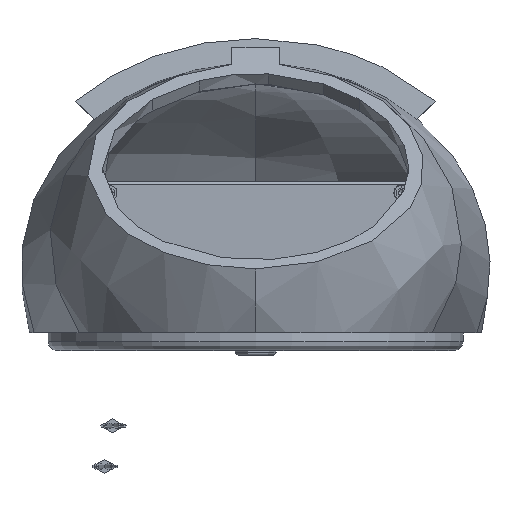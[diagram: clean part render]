
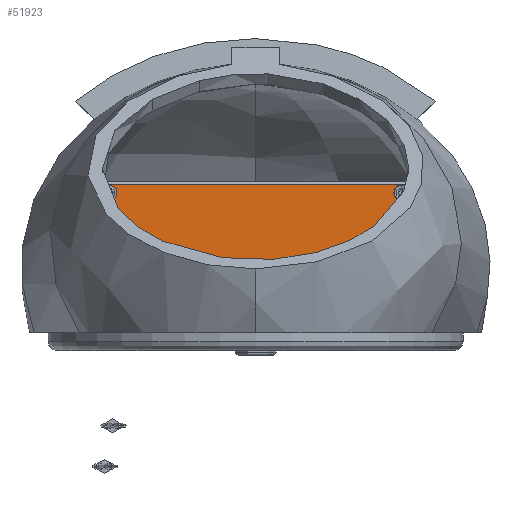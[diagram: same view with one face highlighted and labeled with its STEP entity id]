
A CAD part, front view. The second image highlights one B-rep face of the part: STEP entity #51923.
In plain terms, the highlighted planar face has unit normal (0, -1, 0) as drawn and (0, 1, 0) by its records, which use the part's own axes.
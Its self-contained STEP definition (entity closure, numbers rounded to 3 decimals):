
#1058 = EDGE_LOOP ( 'NONE', ( #5347, #51339, #9104, #41329, #8130, #51818 ) ) ;
#1235 = DIRECTION ( 'NONE',  ( 0., 0., 1. ) ) ;
#1707 = DIRECTION ( 'NONE',  ( 0., -1., 0. ) ) ;
#2329 = CARTESIAN_POINT ( 'NONE',  ( 49.2, 3., 15.7 ) ) ;
#3208 = AXIS2_PLACEMENT_3D ( 'NONE', #45424, #53042, #44869 ) ;
#3218 = VERTEX_POINT ( 'NONE', #18179 ) ;
#3642 = DIRECTION ( 'NONE',  ( 0., -1., 0. ) ) ;
#3797 = VERTEX_POINT ( 'NONE', #17565 ) ;
#4215 = LINE ( 'NONE', #26100, #50249 ) ;
#5016 = EDGE_LOOP ( 'NONE', ( #13840, #11275 ) ) ;
#5347 = ORIENTED_EDGE ( 'NONE', *, *, #46876, .T. ) ;
#5494 = ORIENTED_EDGE ( 'NONE', *, *, #41029, .T. ) ;
#6510 = CARTESIAN_POINT ( 'NONE',  ( 49.2, 3., -28.95 ) ) ;
#7754 = AXIS2_PLACEMENT_3D ( 'NONE', #9491, #9657, #18591 ) ;
#8130 = ORIENTED_EDGE ( 'NONE', *, *, #48815, .T. ) ;
#8308 = EDGE_CURVE ( 'NONE', #24731, #33699, #8690, .T. ) ;
#8355 = EDGE_CURVE ( 'NONE', #29103, #27866, #42750, .T. ) ;
#8690 = CIRCLE ( 'NONE', #18151, 2.75 ) ;
#9104 = ORIENTED_EDGE ( 'NONE', *, *, #9277, .T. ) ;
#9277 = EDGE_CURVE ( 'NONE', #3218, #19041, #45313, .T. ) ;
#9491 = CARTESIAN_POINT ( 'NONE',  ( 51., 3., 17.5 ) ) ;
#9657 = DIRECTION ( 'NONE',  ( 0., 1., 0. ) ) ;
#10444 = DIRECTION ( 'NONE',  ( 0., 0., 1. ) ) ;
#10825 = VECTOR ( 'NONE', #52141, 1000. ) ;
#11258 = DIRECTION ( 'NONE',  ( 0., -1., 0. ) ) ;
#11275 = ORIENTED_EDGE ( 'NONE', *, *, #22335, .T. ) ;
#11458 = VERTEX_POINT ( 'NONE', #26667 ) ;
#11878 = FACE_BOUND ( 'NONE', #36624, .T. ) ;
#13840 = ORIENTED_EDGE ( 'NONE', *, *, #37626, .T. ) ;
#13894 = PLANE ( 'NONE',  #17117 ) ;
#14548 = LINE ( 'NONE', #36496, #30616 ) ;
#14914 = CIRCLE ( 'NONE', #33344, 2.75 ) ;
#15614 = DIRECTION ( 'NONE',  ( 0., -1., 0. ) ) ;
#17117 = AXIS2_PLACEMENT_3D ( 'NONE', #44485, #53026, #1235 ) ;
#17522 = LINE ( 'NONE', #26234, #10825 ) ;
#17565 = CARTESIAN_POINT ( 'NONE',  ( -49.2, 3., 12.95 ) ) ;
#18151 = AXIS2_PLACEMENT_3D ( 'NONE', #22977, #1707, #10444 ) ;
#18179 = CARTESIAN_POINT ( 'NONE',  ( -52., 3., 17.5 ) ) ;
#18591 = DIRECTION ( 'NONE',  ( 0., 0., 1. ) ) ;
#19041 = VERTEX_POINT ( 'NONE', #30239 ) ;
#19338 = ORIENTED_EDGE ( 'NONE', *, *, #38861, .T. ) ;
#19465 = CIRCLE ( 'NONE', #7754, 1. ) ;
#19861 = CIRCLE ( 'NONE', #28509, 2.75 ) ;
#20041 = EDGE_CURVE ( 'NONE', #19041, #46891, #31441, .T. ) ;
#21356 = CARTESIAN_POINT ( 'NONE',  ( 52., 3., 17.5 ) ) ;
#22050 = ORIENTED_EDGE ( 'NONE', *, *, #8308, .T. ) ;
#22335 = EDGE_CURVE ( 'NONE', #3797, #23446, #51962, .T. ) ;
#22485 = AXIS2_PLACEMENT_3D ( 'NONE', #2329, #11258, #53588 ) ;
#22694 = VERTEX_POINT ( 'NONE', #21356 ) ;
#22724 = CARTESIAN_POINT ( 'NONE',  ( 51., 3., 18.5 ) ) ;
#22784 = DIRECTION ( 'NONE',  ( 0., -1., 0. ) ) ;
#22977 = CARTESIAN_POINT ( 'NONE',  ( 49.2, 3., -31.7 ) ) ;
#23446 = VERTEX_POINT ( 'NONE', #43407 ) ;
#23681 = EDGE_LOOP ( 'NONE', ( #48334, #22050 ) ) ;
#23877 = FACE_OUTER_BOUND ( 'NONE', #1058, .T. ) ;
#24731 = VERTEX_POINT ( 'NONE', #51080 ) ;
#25184 = AXIS2_PLACEMENT_3D ( 'NONE', #26776, #43210, #35211 ) ;
#25375 = VERTEX_POINT ( 'NONE', #35908 ) ;
#26100 = CARTESIAN_POINT ( 'NONE',  ( -53., 3., -35.5 ) ) ;
#26234 = CARTESIAN_POINT ( 'NONE',  ( 52., 3., -35.5 ) ) ;
#26355 = DIRECTION ( 'NONE',  ( 0., -1., 0. ) ) ;
#26587 = ORIENTED_EDGE ( 'NONE', *, *, #55169, .T. ) ;
#26667 = CARTESIAN_POINT ( 'NONE',  ( 49.2, 3., 12.95 ) ) ;
#26776 = CARTESIAN_POINT ( 'NONE',  ( 49.2, 3., -31.7 ) ) ;
#27070 = DIRECTION ( 'NONE',  ( 0., 0., 1. ) ) ;
#27174 = ORIENTED_EDGE ( 'NONE', *, *, #8355, .T. ) ;
#27462 = VERTEX_POINT ( 'NONE', #48180 ) ;
#27866 = VERTEX_POINT ( 'NONE', #54647 ) ;
#28083 = AXIS2_PLACEMENT_3D ( 'NONE', #54545, #3642, #50640 ) ;
#28330 = CIRCLE ( 'NONE', #25184, 2.75 ) ;
#28509 = AXIS2_PLACEMENT_3D ( 'NONE', #47646, #26355, #36070 ) ;
#28719 = CARTESIAN_POINT ( 'NONE',  ( 49.2, 3., 15.7 ) ) ;
#29103 = VERTEX_POINT ( 'NONE', #39580 ) ;
#29258 = FACE_BOUND ( 'NONE', #5016, .T. ) ;
#29596 = EDGE_CURVE ( 'NONE', #33699, #24731, #28330, .T. ) ;
#30239 = CARTESIAN_POINT ( 'NONE',  ( -51., 3., 18.5 ) ) ;
#30616 = VECTOR ( 'NONE', #32560, 1000. ) ;
#30690 = DIRECTION ( 'NONE',  ( 1., 0., 0. ) ) ;
#30996 = EDGE_CURVE ( 'NONE', #22694, #25375, #17522, .T. ) ;
#31441 = LINE ( 'NONE', #35172, #36099 ) ;
#32560 = DIRECTION ( 'NONE',  ( 0., 0., 1. ) ) ;
#33344 = AXIS2_PLACEMENT_3D ( 'NONE', #28719, #15614, #53865 ) ;
#33699 = VERTEX_POINT ( 'NONE', #6510 ) ;
#34022 = CARTESIAN_POINT ( 'NONE',  ( -51., 3., 17.5 ) ) ;
#35172 = CARTESIAN_POINT ( 'NONE',  ( 51., 3., 18.5 ) ) ;
#35211 = DIRECTION ( 'NONE',  ( 0., 0., 1. ) ) ;
#35808 = DIRECTION ( 'NONE',  ( -1., 0., 0. ) ) ;
#35908 = CARTESIAN_POINT ( 'NONE',  ( 52., 3., -35.5 ) ) ;
#36070 = DIRECTION ( 'NONE',  ( 0., 0., 1. ) ) ;
#36099 = VECTOR ( 'NONE', #30690, 1000. ) ;
#36496 = CARTESIAN_POINT ( 'NONE',  ( -52., 3., 17.5 ) ) ;
#36554 = CARTESIAN_POINT ( 'NONE',  ( 49.2, 3., 18.45 ) ) ;
#36624 = EDGE_LOOP ( 'NONE', ( #19338, #27174 ) ) ;
#36935 = VERTEX_POINT ( 'NONE', #36554 ) ;
#37626 = EDGE_CURVE ( 'NONE', #23446, #3797, #46718, .T. ) ;
#38332 = DIRECTION ( 'NONE',  ( 0., 1., 0. ) ) ;
#38424 = CIRCLE ( 'NONE', #22485, 2.75 ) ;
#38861 = EDGE_CURVE ( 'NONE', #27866, #29103, #19861, .T. ) ;
#39580 = CARTESIAN_POINT ( 'NONE',  ( -49.2, 3., -34.45 ) ) ;
#40607 = FACE_BOUND ( 'NONE', #23681, .T. ) ;
#41029 = EDGE_CURVE ( 'NONE', #11458, #36935, #38424, .T. ) ;
#41329 = ORIENTED_EDGE ( 'NONE', *, *, #20041, .T. ) ;
#42120 = AXIS2_PLACEMENT_3D ( 'NONE', #52413, #22784, #27070 ) ;
#42565 = DIRECTION ( 'NONE',  ( 0., 0., 1. ) ) ;
#42750 = CIRCLE ( 'NONE', #42120, 2.75 ) ;
#43210 = DIRECTION ( 'NONE',  ( 0., -1., 0. ) ) ;
#43407 = CARTESIAN_POINT ( 'NONE',  ( -49.2, 3., 18.45 ) ) ;
#44485 = CARTESIAN_POINT ( 'NONE',  ( 51., 3., 17.5 ) ) ;
#44869 = DIRECTION ( 'NONE',  ( 0., 0., 1. ) ) ;
#45014 = EDGE_LOOP ( 'NONE', ( #26587, #5494 ) ) ;
#45313 = CIRCLE ( 'NONE', #49604, 1. ) ;
#45424 = CARTESIAN_POINT ( 'NONE',  ( -49.2, 3., 15.7 ) ) ;
#46718 = CIRCLE ( 'NONE', #28083, 2.75 ) ;
#46876 = EDGE_CURVE ( 'NONE', #25375, #27462, #4215, .T. ) ;
#46891 = VERTEX_POINT ( 'NONE', #22724 ) ;
#47646 = CARTESIAN_POINT ( 'NONE',  ( -49.2, 3., -31.7 ) ) ;
#48180 = CARTESIAN_POINT ( 'NONE',  ( -52., 3., -35.5 ) ) ;
#48334 = ORIENTED_EDGE ( 'NONE', *, *, #29596, .T. ) ;
#48815 = EDGE_CURVE ( 'NONE', #46891, #22694, #19465, .T. ) ;
#49248 = FACE_BOUND ( 'NONE', #45014, .T. ) ;
#49604 = AXIS2_PLACEMENT_3D ( 'NONE', #34022, #38332, #42565 ) ;
#50249 = VECTOR ( 'NONE', #35808, 1000. ) ;
#50640 = DIRECTION ( 'NONE',  ( 0., 0., 1. ) ) ;
#51080 = CARTESIAN_POINT ( 'NONE',  ( 49.2, 3., -34.45 ) ) ;
#51339 = ORIENTED_EDGE ( 'NONE', *, *, #52065, .T. ) ;
#51818 = ORIENTED_EDGE ( 'NONE', *, *, #30996, .T. ) ;
#51923 = ADVANCED_FACE ( 'NONE', ( #40607, #29258, #23877, #11878, #49248 ), #13894, .T. ) ;
#51962 = CIRCLE ( 'NONE', #3208, 2.75 ) ;
#52065 = EDGE_CURVE ( 'NONE', #27462, #3218, #14548, .T. ) ;
#52141 = DIRECTION ( 'NONE',  ( 0., 0., -1. ) ) ;
#52413 = CARTESIAN_POINT ( 'NONE',  ( -49.2, 3., -31.7 ) ) ;
#53026 = DIRECTION ( 'NONE',  ( 0., 1., 0. ) ) ;
#53042 = DIRECTION ( 'NONE',  ( 0., -1., 0. ) ) ;
#53588 = DIRECTION ( 'NONE',  ( 0., 0., 1. ) ) ;
#53865 = DIRECTION ( 'NONE',  ( 0., 0., 1. ) ) ;
#54545 = CARTESIAN_POINT ( 'NONE',  ( -49.2, 3., 15.7 ) ) ;
#54647 = CARTESIAN_POINT ( 'NONE',  ( -49.2, 3., -28.95 ) ) ;
#55169 = EDGE_CURVE ( 'NONE', #36935, #11458, #14914, .T. ) ;
